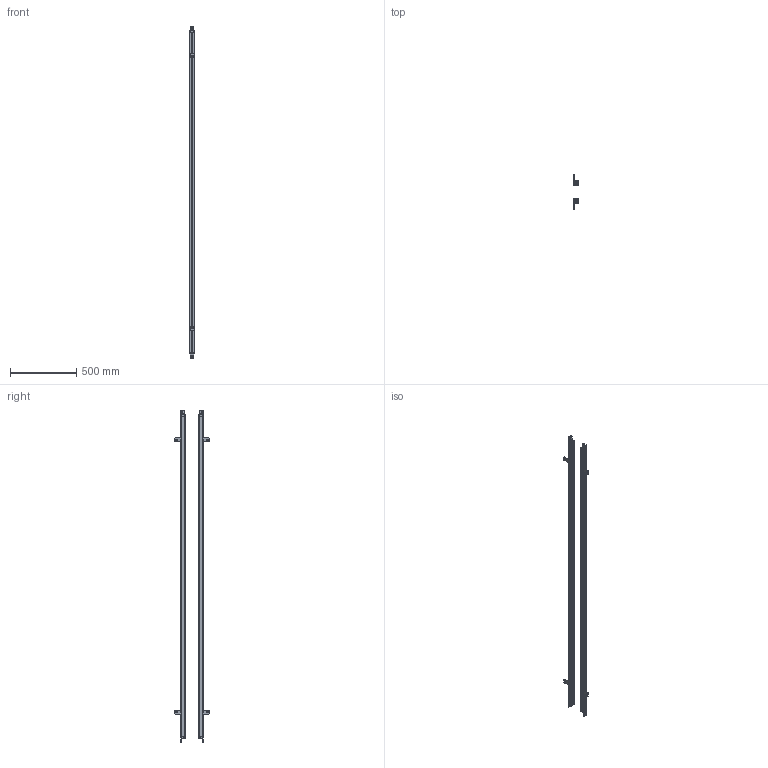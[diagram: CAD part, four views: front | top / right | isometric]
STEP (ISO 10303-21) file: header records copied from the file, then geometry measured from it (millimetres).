
FILE_DESCRIPTION(/* description */ (''),/* implementation_level */ '2;1');
FILE_NAME(/* name */ '6040_35X35.stp',/* time_stamp */ '2023-09-18T16:10:34+08:00',/* author */ (''),/* organization */ (''),/* preprocessor_version */ 'ST-DEVELOPER v16.7',/* originating_system */ 'SIEMENS PLM Software NX 12.0',/* authorisation */ '');
FILE_SCHEMA (('AP203_CONFIGURATION_CONTROLLED_3D_DESIGN_OF_MECHANICAL_PARTS_AND_ASSEMBLIES_MIM_LF { 1 0 10303 403 2 1 2}'));
Length unit declared in the file: millimetre
Products named in the file (1): 5040_35X35_stp
Bounding box: 35.41 x 258.01 x 2501.6 mm (x, y, z)
Volume: 2313494.7 mm3; surface area: 1726795.2 mm2
Topology: 28 solids, 28 shells, 1182 faces, 3360 edges, 2260 vertices
Faces by surface type: plane 658, cylinder 464, cone 60
Full cylindrical faces by diameter (mm): 3.2 x8, 6 x24, 13 x2, 14.4 x2, 15 x2
Entity records: 39055 total; most frequent: DIRECTION 6832, CARTESIAN_POINT 6745, ORIENTED_EDGE 6612, EDGE_CURVE 3306, AXIS2_PLACEMENT_3D 2347, VERTEX_POINT 2244, LINE 2138, VECTOR 2138
